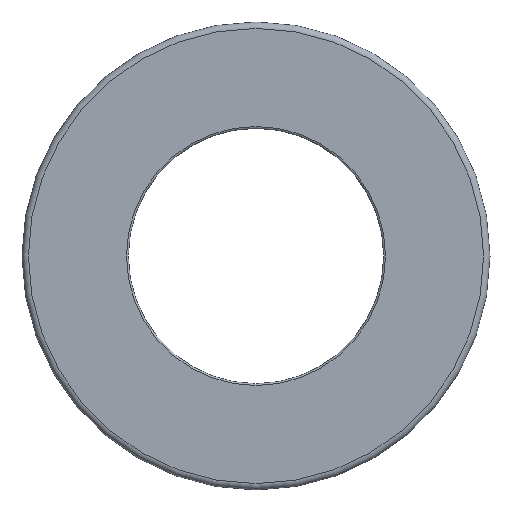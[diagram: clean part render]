
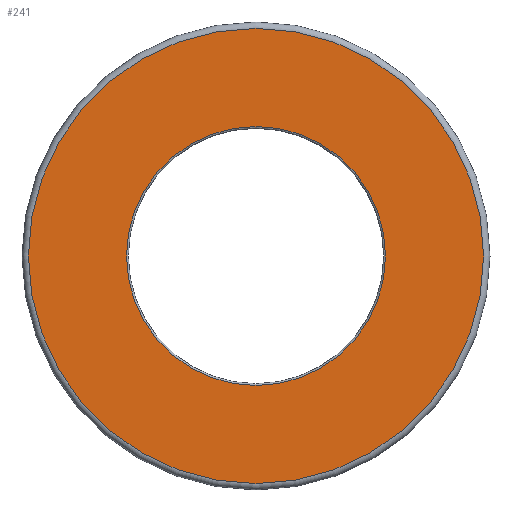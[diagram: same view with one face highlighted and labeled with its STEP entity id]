
A CAD part, left-side view. The second image highlights one B-rep face of the part: STEP entity #241.
In plain terms, the highlighted planar face has unit normal (-1, 0, 0).
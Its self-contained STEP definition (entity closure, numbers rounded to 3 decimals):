
#20=FACE_BOUND('',#67,.T.);
#24=PLANE('',#292);
#49=FACE_OUTER_BOUND('',#66,.T.);
#66=EDGE_LOOP('',(#186));
#67=EDGE_LOOP('',(#187));
#89=CIRCLE('',#288,10.7);
#92=CIRCLE('',#293,6.088);
#114=VERTEX_POINT('',#434);
#117=VERTEX_POINT('',#444);
#139=EDGE_CURVE('',#114,#114,#89,.T.);
#143=EDGE_CURVE('',#117,#117,#92,.T.);
#186=ORIENTED_EDGE('',*,*,#139,.F.);
#187=ORIENTED_EDGE('',*,*,#143,.T.);
#241=ADVANCED_FACE('',(#49,#20),#24,.T.);
#288=AXIS2_PLACEMENT_3D('',#436,#347,#348);
#292=AXIS2_PLACEMENT_3D('',#443,#356,#357);
#293=AXIS2_PLACEMENT_3D('',#445,#358,#359);
#347=DIRECTION('center_axis',(1.,0.,0.));
#348=DIRECTION('ref_axis',(0.,-1.,0.));
#356=DIRECTION('center_axis',(-1.,0.,0.));
#357=DIRECTION('ref_axis',(0.,0.,1.));
#358=DIRECTION('center_axis',(1.,0.,0.));
#359=DIRECTION('ref_axis',(0.,1.,0.));
#434=CARTESIAN_POINT('',(0.,0.,10.7));
#436=CARTESIAN_POINT('Origin',(0.,0.,
0.));
#443=CARTESIAN_POINT('Origin',(0.,8.544,0.));
#444=CARTESIAN_POINT('',(0.,0.,6.088));
#445=CARTESIAN_POINT('Origin',(0.,0.,
0.));
